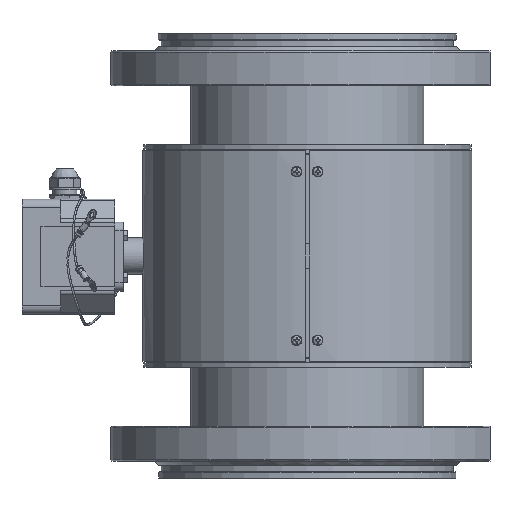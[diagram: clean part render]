
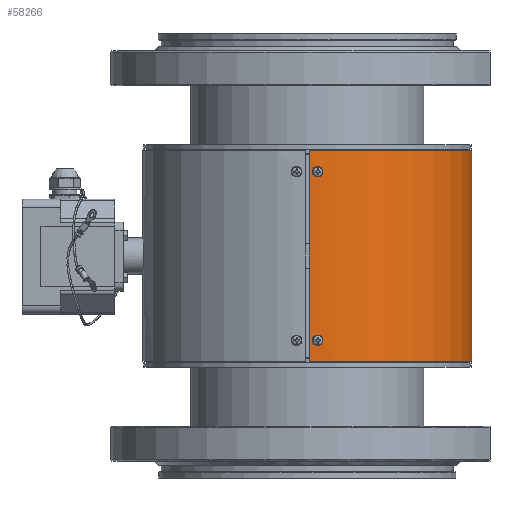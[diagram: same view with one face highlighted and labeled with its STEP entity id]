
A CAD part, front view. The second image highlights one B-rep face of the part: STEP entity #58266.
In plain terms, the highlighted cylindrical face has radius 117 mm (diameter 234 mm), a partial arc.
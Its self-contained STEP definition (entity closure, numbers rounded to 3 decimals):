
#1202=FACE_BOUND('',#8752,.T.);
#1203=FACE_BOUND('',#8753,.T.);
#1204=FACE_BOUND('',#8754,.T.);
#1205=FACE_BOUND('',#8755,.T.);
#1517=B_SPLINE_CURVE_WITH_KNOTS('',3,(#85576,#85577,#85578,#85579,#85580,
#85581,#85582),.UNSPECIFIED.,.F.,.F.,(4,1,1,1,4),(-2.335,-2.002,
-1.668,-1.334,-1.168),.UNSPECIFIED.);
#1539=B_SPLINE_CURVE_WITH_KNOTS('',3,(#86457,#86458,#86459,#86460,#86461,
#86462,#86463),.UNSPECIFIED.,.F.,.F.,(4,1,1,1,4),(-2.335,-2.002,
-1.668,-1.334,-1.168),.UNSPECIFIED.);
#1561=B_SPLINE_CURVE_WITH_KNOTS('',3,(#87265,#87266,#87267,#87268,#87269,
#87270,#87271),.UNSPECIFIED.,.F.,.F.,(4,1,1,1,4),(-2.335,-2.002,
-1.668,-1.334,-1.168),.UNSPECIFIED.);
#1573=B_SPLINE_CURVE_WITH_KNOTS('',3,(#87701,#87702,#87703,#87704,#87705,
#87706,#87707,#87708,#87709),.UNSPECIFIED.,.F.,.F.,(4,1,1,1,1,1,4),(-2.335,
-2.127,-2.002,-1.668,-1.501,
-1.376,-1.168),.UNSPECIFIED.);
#1575=B_SPLINE_CURVE_WITH_KNOTS('',3,(#87742,#87743,#87744,#87745,#87746,
#87747,#87748),.UNSPECIFIED.,.F.,.F.,(4,1,1,1,4),(-1.168,-0.834,
-0.5,-0.334,0.),
 .UNSPECIFIED.);
#1576=B_SPLINE_CURVE_WITH_KNOTS('',3,(#87758,#87759,#87760,#87761,#87762,
#87763,#87764),.UNSPECIFIED.,.F.,.F.,(4,1,1,1,4),(-1.168,-1.001,
-0.667,-0.334,0.),
 .UNSPECIFIED.);
#1577=B_SPLINE_CURVE_WITH_KNOTS('',3,(#87765,#87766,#87767,#87768,#87769,
#87770,#87771),.UNSPECIFIED.,.F.,.F.,(4,1,1,1,4),(-1.168,-1.001,
-0.667,-0.334,0.),
 .UNSPECIFIED.);
#1578=B_SPLINE_CURVE_WITH_KNOTS('',3,(#87772,#87773,#87774,#87775,#87776,
#87777,#87778),.UNSPECIFIED.,.F.,.F.,(4,1,1,1,4),(-1.168,-0.834,
-0.5,-0.334,0.),
 .UNSPECIFIED.);
#5299=FACE_OUTER_BOUND('',#8751,.T.);
#8751=EDGE_LOOP('',(#43062,#43063,#43064,#43065));
#8752=EDGE_LOOP('',(#43066,#43067));
#8753=EDGE_LOOP('',(#43068,#43069));
#8754=EDGE_LOOP('',(#43070,#43071));
#8755=EDGE_LOOP('',(#43072,#43073));
#12638=LINE('',#87754,#18144);
#12639=LINE('',#87757,#18145);
#18144=VECTOR('',#69682,10.);
#18145=VECTOR('',#69685,10.);
#23345=CIRCLE('',#62378,117.);
#23346=CIRCLE('',#62379,117.);
#25661=VERTEX_POINT('',#85570);
#25662=VERTEX_POINT('',#85575);
#25758=VERTEX_POINT('',#86451);
#25759=VERTEX_POINT('',#86456);
#25853=VERTEX_POINT('',#87259);
#25854=VERTEX_POINT('',#87264);
#25908=VERTEX_POINT('',#87695);
#25909=VERTEX_POINT('',#87700);
#25910=VERTEX_POINT('',#87750);
#25911=VERTEX_POINT('',#87751);
#25912=VERTEX_POINT('',#87753);
#25913=VERTEX_POINT('',#87755);
#31976=EDGE_CURVE('',#25661,#25662,#1517,.T.);
#32115=EDGE_CURVE('',#25758,#25759,#1539,.T.);
#32258=EDGE_CURVE('',#25853,#25854,#1561,.T.);
#32334=EDGE_CURVE('',#25908,#25909,#1573,.T.);
#32336=EDGE_CURVE('',#25854,#25853,#1575,.T.);
#32337=EDGE_CURVE('',#25910,#25911,#23345,.T.);
#32338=EDGE_CURVE('',#25911,#25912,#12638,.T.);
#32339=EDGE_CURVE('',#25912,#25913,#23346,.T.);
#32340=EDGE_CURVE('',#25913,#25910,#12639,.T.);
#32341=EDGE_CURVE('',#25909,#25908,#1576,.T.);
#32342=EDGE_CURVE('',#25662,#25661,#1577,.T.);
#32343=EDGE_CURVE('',#25759,#25758,#1578,.T.);
#43062=ORIENTED_EDGE('',*,*,#32337,.T.);
#43063=ORIENTED_EDGE('',*,*,#32338,.T.);
#43064=ORIENTED_EDGE('',*,*,#32339,.T.);
#43065=ORIENTED_EDGE('',*,*,#32340,.T.);
#43066=ORIENTED_EDGE('',*,*,#32341,.F.);
#43067=ORIENTED_EDGE('',*,*,#32334,.F.);
#43068=ORIENTED_EDGE('',*,*,#32342,.F.);
#43069=ORIENTED_EDGE('',*,*,#31976,.F.);
#43070=ORIENTED_EDGE('',*,*,#32343,.F.);
#43071=ORIENTED_EDGE('',*,*,#32115,.F.);
#43072=ORIENTED_EDGE('',*,*,#32336,.F.);
#43073=ORIENTED_EDGE('',*,*,#32258,.F.);
#57101=CYLINDRICAL_SURFACE('',#62377,117.);
#58266=ADVANCED_FACE('',(#5299,#1202,#1203,#1204,#1205),#57101,.T.);
#62377=AXIS2_PLACEMENT_3D('',#87749,#69678,#69679);
#62378=AXIS2_PLACEMENT_3D('',#87752,#69680,#69681);
#62379=AXIS2_PLACEMENT_3D('',#87756,#69683,#69684);
#69678=DIRECTION('center_axis',(0.,0.,
1.));
#69679=DIRECTION('ref_axis',(-0.002,-1.,0.));
#69680=DIRECTION('center_axis',(0.,0.,
-1.));
#69681=DIRECTION('ref_axis',(-0.002,-1.,0.));
#69682=DIRECTION('',(0.,0.,-1.));
#69683=DIRECTION('center_axis',(0.,0.,
1.));
#69684=DIRECTION('ref_axis',(-0.002,-1.,0.));
#69685=DIRECTION('',(0.,0.,1.));
#85570=CARTESIAN_POINT('',(11.129,-116.469,205.));
#85575=CARTESIAN_POINT('',(3.602,-116.945,205.));
#85576=CARTESIAN_POINT('Ctrl Pts',(11.129,-116.469,205.));
#85577=CARTESIAN_POINT('Ctrl Pts',(11.129,-116.469,206.115));
#85578=CARTESIAN_POINT('Ctrl Pts',(10.051,-116.582,208.336));
#85579=CARTESIAN_POINT('Ctrl Pts',(6.405,-116.845,209.165));
#85580=CARTESIAN_POINT('Ctrl Pts',(3.972,-116.934,207.238));
#85581=CARTESIAN_POINT('Ctrl Pts',(3.602,-116.945,205.558));
#85582=CARTESIAN_POINT('Ctrl Pts',(3.602,-116.945,205.));
#86451=CARTESIAN_POINT('',(11.129,-116.469,85.));
#86456=CARTESIAN_POINT('',(3.602,-116.945,85.));
#86457=CARTESIAN_POINT('Ctrl Pts',(11.129,-116.469,85.));
#86458=CARTESIAN_POINT('Ctrl Pts',(11.129,-116.469,86.115));
#86459=CARTESIAN_POINT('Ctrl Pts',(10.051,-116.581,88.336));
#86460=CARTESIAN_POINT('Ctrl Pts',(6.405,-116.845,89.165));
#86461=CARTESIAN_POINT('Ctrl Pts',(3.972,-116.934,87.238));
#86462=CARTESIAN_POINT('Ctrl Pts',(3.602,-116.945,85.558));
#86463=CARTESIAN_POINT('Ctrl Pts',(3.602,-116.945,85.));
#87259=CARTESIAN_POINT('',(4.046,116.93,85.));
#87264=CARTESIAN_POINT('',(11.572,116.426,85.));
#87265=CARTESIAN_POINT('Ctrl Pts',(4.046,116.93,85.));
#87266=CARTESIAN_POINT('Ctrl Pts',(4.046,116.93,86.115));
#87267=CARTESIAN_POINT('Ctrl Pts',(5.13,116.902,88.336));
#87268=CARTESIAN_POINT('Ctrl Pts',(8.779,116.691,89.165));
#87269=CARTESIAN_POINT('Ctrl Pts',(11.203,116.464,87.238));
#87270=CARTESIAN_POINT('Ctrl Pts',(11.572,116.426,85.558));
#87271=CARTESIAN_POINT('Ctrl Pts',(11.572,116.426,85.));
#87695=CARTESIAN_POINT('',(4.046,116.93,205.));
#87700=CARTESIAN_POINT('',(11.572,116.426,205.));
#87701=CARTESIAN_POINT('Ctrl Pts',(4.046,116.93,205.));
#87702=CARTESIAN_POINT('Ctrl Pts',(4.046,116.93,205.697));
#87703=CARTESIAN_POINT('Ctrl Pts',(4.374,116.919,206.804));
#87704=CARTESIAN_POINT('Ctrl Pts',(5.894,116.857,208.509));
#87705=CARTESIAN_POINT('Ctrl Pts',(8.158,116.726,209.023));
#87706=CARTESIAN_POINT('Ctrl Pts',(10.109,116.564,208.073));
#87707=CARTESIAN_POINT('Ctrl Pts',(11.247,116.46,206.812));
#87708=CARTESIAN_POINT('Ctrl Pts',(11.572,116.426,205.697));
#87709=CARTESIAN_POINT('Ctrl Pts',(11.572,116.426,205.));
#87742=CARTESIAN_POINT('Ctrl Pts',(11.572,116.426,85.));
#87743=CARTESIAN_POINT('Ctrl Pts',(11.572,116.426,83.885));
#87744=CARTESIAN_POINT('Ctrl Pts',(10.489,116.542,81.662));
#87745=CARTESIAN_POINT('Ctrl Pts',(7.47,116.773,80.982));
#87746=CARTESIAN_POINT('Ctrl Pts',(4.859,116.905,82.24));
#87747=CARTESIAN_POINT('Ctrl Pts',(4.046,116.93,83.886));
#87748=CARTESIAN_POINT('Ctrl Pts',(4.046,116.93,85.));
#87749=CARTESIAN_POINT('Origin',(0.,0.,
145.));
#87750=CARTESIAN_POINT('',(1.761,116.987,220.));
#87751=CARTESIAN_POINT('',(1.316,-116.993,220.));
#87752=CARTESIAN_POINT('Origin',(0.,0.,
220.));
#87753=CARTESIAN_POINT('',(1.316,-116.993,70.));
#87754=CARTESIAN_POINT('',(1.316,-116.993,145.));
#87755=CARTESIAN_POINT('',(1.761,116.987,70.));
#87756=CARTESIAN_POINT('Origin',(0.,0.,
70.));
#87757=CARTESIAN_POINT('',(1.761,116.987,145.));
#87758=CARTESIAN_POINT('Ctrl Pts',(11.572,116.426,205.));
#87759=CARTESIAN_POINT('Ctrl Pts',(11.572,116.426,204.442));
#87760=CARTESIAN_POINT('Ctrl Pts',(11.203,116.464,202.762));
#87761=CARTESIAN_POINT('Ctrl Pts',(8.779,116.691,200.834));
#87762=CARTESIAN_POINT('Ctrl Pts',(5.129,116.902,201.665));
#87763=CARTESIAN_POINT('Ctrl Pts',(4.046,116.93,203.886));
#87764=CARTESIAN_POINT('Ctrl Pts',(4.046,116.93,205.));
#87765=CARTESIAN_POINT('Ctrl Pts',(3.602,-116.945,205.));
#87766=CARTESIAN_POINT('Ctrl Pts',(3.602,-116.945,204.442));
#87767=CARTESIAN_POINT('Ctrl Pts',(3.972,-116.934,202.762));
#87768=CARTESIAN_POINT('Ctrl Pts',(6.406,-116.845,200.834));
#87769=CARTESIAN_POINT('Ctrl Pts',(10.052,-116.581,201.665));
#87770=CARTESIAN_POINT('Ctrl Pts',(11.13,-116.469,203.886));
#87771=CARTESIAN_POINT('Ctrl Pts',(11.129,-116.469,205.));
#87772=CARTESIAN_POINT('Ctrl Pts',(3.602,-116.945,85.));
#87773=CARTESIAN_POINT('Ctrl Pts',(3.602,-116.945,83.885));
#87774=CARTESIAN_POINT('Ctrl Pts',(4.69,-116.92,81.662));
#87775=CARTESIAN_POINT('Ctrl Pts',(7.714,-116.757,80.982));
#87776=CARTESIAN_POINT('Ctrl Pts',(10.32,-116.55,82.24));
#87777=CARTESIAN_POINT('Ctrl Pts',(11.13,-116.469,83.886));
#87778=CARTESIAN_POINT('Ctrl Pts',(11.129,-116.469,85.));
